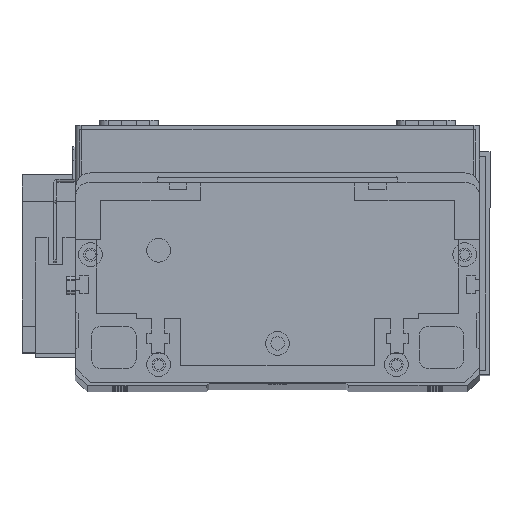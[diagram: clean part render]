
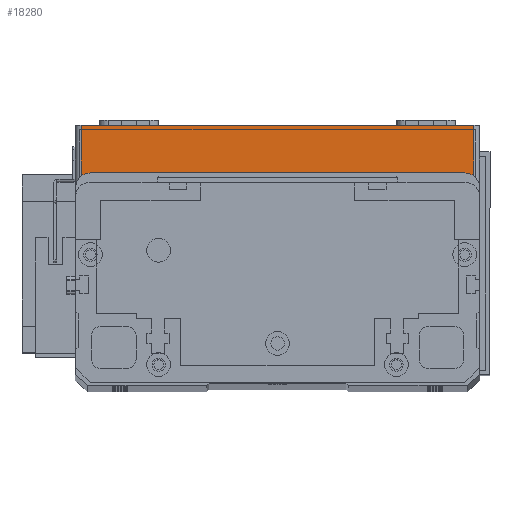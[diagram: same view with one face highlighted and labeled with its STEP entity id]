
A CAD part, top view. The second image highlights one B-rep face of the part: STEP entity #18280.
In plain terms, the highlighted planar face has unit normal (0, 0, 1) as drawn and (0, -1, 0) by its records, which use the part's own axes.
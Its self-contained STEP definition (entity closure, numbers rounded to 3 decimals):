
#495 = ORIENTED_EDGE ( 'NONE', *, *, #18384, .T. ) ;
#862 = DIRECTION ( 'NONE',  ( 0., 0., 1. ) ) ;
#3994 = VECTOR ( 'NONE', #17222, 1000. ) ;
#6248 = LINE ( 'NONE', #24102, #17676 ) ;
#7657 = FACE_OUTER_BOUND ( 'NONE', #21903, .T. ) ;
#8092 = DIRECTION ( 'NONE',  ( 0., 0., 1. ) ) ;
#10045 = LINE ( 'NONE', #24000, #3994 ) ;
#11417 = VERTEX_POINT ( 'NONE', #24748 ) ;
#14497 = PLANE ( 'NONE',  #25139 ) ;
#14595 = CARTESIAN_POINT ( 'NONE',  ( 134., 0., 19.5 ) ) ;
#16557 = VERTEX_POINT ( 'NONE', #14595 ) ;
#16584 = DIRECTION ( 'NONE',  ( 1., 0., 0. ) ) ;
#16771 = VECTOR ( 'NONE', #24622, 1000. ) ;
#17222 = DIRECTION ( 'NONE',  ( 1., 0., 0. ) ) ;
#17676 = VECTOR ( 'NONE', #8092, 1000. ) ;
#18280 = ADVANCED_FACE ( 'NONE', ( #7657 ), #14497, .F. ) ;
#18384 = EDGE_CURVE ( 'NONE', #28740, #16557, #6248, .T. ) ;
#18779 = EDGE_CURVE ( 'NONE', #11417, #16557, #23017, .T. ) ;
#20085 = CARTESIAN_POINT ( 'NONE',  ( 2., 0., 19.5 ) ) ;
#21903 = EDGE_LOOP ( 'NONE', ( #27585, #27964, #29317, #495 ) ) ;
#23017 = LINE ( 'NONE', #27877, #28224 ) ;
#23621 = DIRECTION ( 'NONE',  ( 0., 1., 0. ) ) ;
#24000 = CARTESIAN_POINT ( 'NONE',  ( 0., 0., 0. ) ) ;
#24102 = CARTESIAN_POINT ( 'NONE',  ( 134., 0., 19.5 ) ) ;
#24622 = DIRECTION ( 'NONE',  ( 0., 0., -1. ) ) ;
#24748 = CARTESIAN_POINT ( 'NONE',  ( 2., 0., 19.5 ) ) ;
#25139 = AXIS2_PLACEMENT_3D ( 'NONE', #25871, #23621, #862 ) ;
#25405 = EDGE_CURVE ( 'NONE', #26041, #28740, #10045, .T. ) ;
#25465 = CARTESIAN_POINT ( 'NONE',  ( 134., 0., 0. ) ) ;
#25871 = CARTESIAN_POINT ( 'NONE',  ( 0., 0., 19.5 ) ) ;
#26041 = VERTEX_POINT ( 'NONE', #26050 ) ;
#26050 = CARTESIAN_POINT ( 'NONE',  ( 2., 0., 0. ) ) ;
#26930 = EDGE_CURVE ( 'NONE', #11417, #26041, #28805, .T. ) ;
#27585 = ORIENTED_EDGE ( 'NONE', *, *, #18779, .F. ) ;
#27877 = CARTESIAN_POINT ( 'NONE',  ( 0., 0., 19.5 ) ) ;
#27964 = ORIENTED_EDGE ( 'NONE', *, *, #26930, .T. ) ;
#28224 = VECTOR ( 'NONE', #16584, 1000. ) ;
#28740 = VERTEX_POINT ( 'NONE', #25465 ) ;
#28805 = LINE ( 'NONE', #20085, #16771 ) ;
#29317 = ORIENTED_EDGE ( 'NONE', *, *, #25405, .T. ) ;
